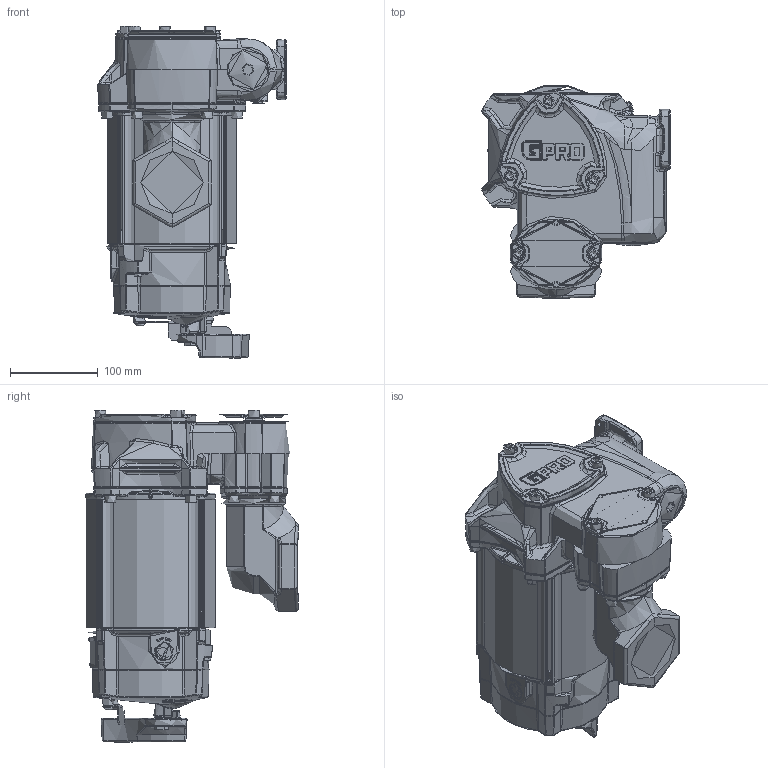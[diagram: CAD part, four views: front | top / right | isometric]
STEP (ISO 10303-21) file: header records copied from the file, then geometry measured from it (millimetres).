
FILE_DESCRIPTION(/* description */ (''),/* implementation_level */ '2;1');
FILE_NAME(/* name */ 'V35 115RD.stp',/* time_stamp */ '2025-02-07T11:24:27-06:00',/* author */ ('gdanhar'),/* organization */ (''),/* preprocessor_version */ 'ST-DEVELOPER v20',/* originating_system */ 'Autodesk Inventor 2024',/* authorisation */ '');
FILE_SCHEMA (('AUTOMOTIVE_DESIGN { 1 0 10303 214 3 1 1 }'));
Length unit declared in the file: inch
Products named in the file (4): V35_WEB_ASSY; 172100-01_WEB; 904009-28; 171903-02
Assembly tree (4 placements, depth 2):
  V35_WEB_ASSY
    172100-01_WEB
    904009-28  x2
    171903-02
Bounding box: 214.87 x 242.25 x 378.01 mm (x, y, z)
Volume: 7280051.7 mm3; surface area: 364263.8 mm2
Topology: 7 solids, 8 shells, 6530 faces, 16392 edges, 10027 vertices
Faces by surface type: bspline 2440, plane 1784, cylinder 1159, torus 497, cone 350, sphere 300
Full cylindrical faces by diameter (mm): 4.978 x11, 5.842 x6, 5.994 x4, 6 x62, 6.604 x2, 7.806 x4, 9.487 x1, 9.525 x6, 9.906 x2, 10 x4, 10.5 x2, 10.516 x1, 12.706 x1, 13 x13, 36.932 x1, 45.212 x1, 47.625 x1, 48.26 x1, 71.12 x1, 72.39 x1
Entity records: 310761 total; most frequent: CARTESIAN_POINT 161566, ORIENTED_EDGE 32542, DIRECTION 25986, EDGE_CURVE 16271, AXIS2_PLACEMENT_3D 10711, VERTEX_POINT 10000, EDGE_LOOP 6801, FACE_OUTER_BOUND 6512
